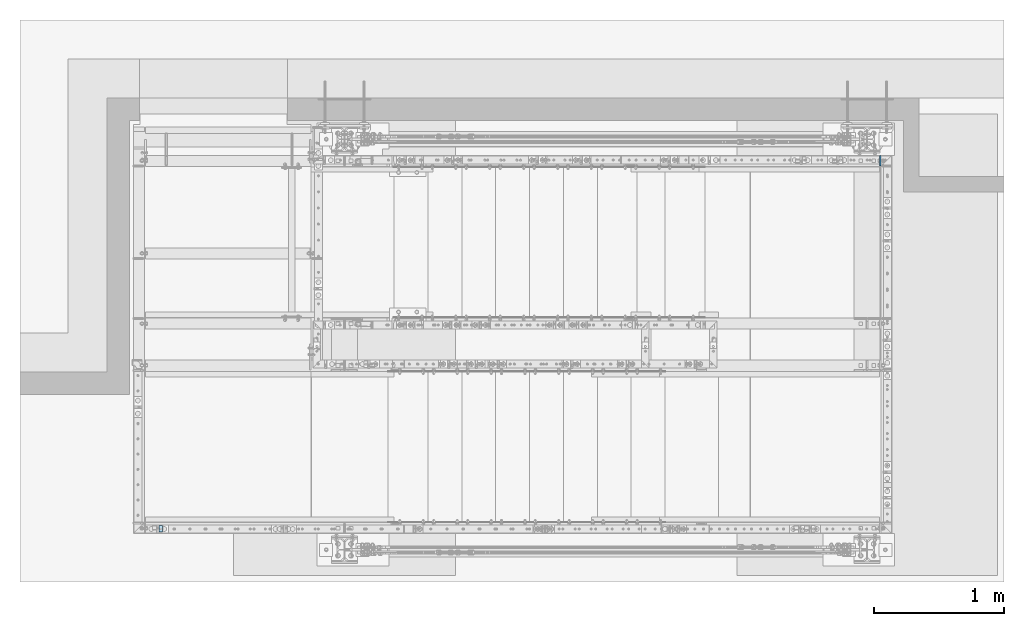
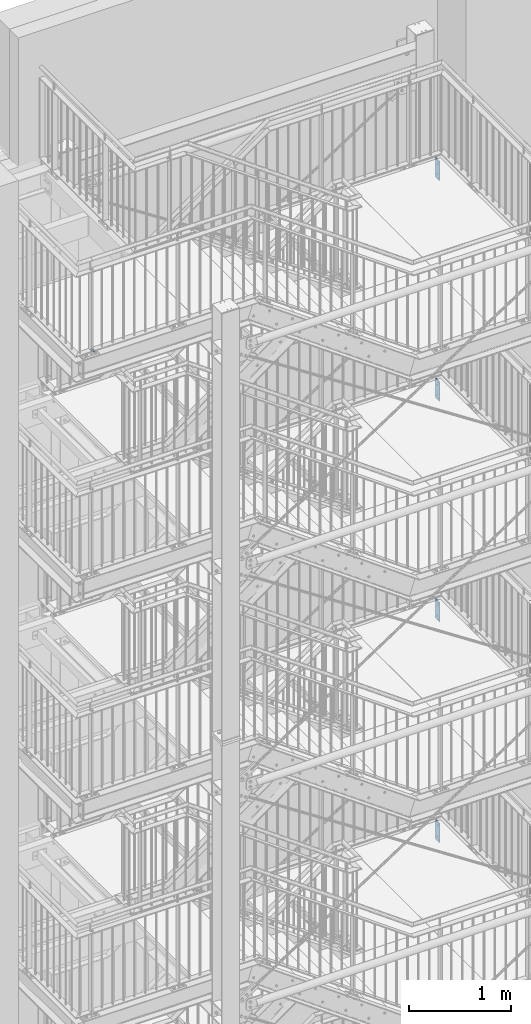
# One storey, part 220 of 831: 5 plates, 17 openings.
"""IFC2X3 building model written with IfcOpenShell, lengths in millimetres."""

from ifc_helpers import new_model, entity, si_unit, converted_unit, point, frame, frame_2d, origin, origin_with_axes, origin_2d_with_axis, place, context, project, spatial, polyline, circle_curve, line_curve, trimmed, segment, composite_curve, circle, outline, extrude, material, layer, layer_set, element, save


model = new_model("IFC2X3")

# Units and contexts
model_context = context("Model", 3, precision=1e-09, world=origin_with_axes())
ifc_project = project(units=[si_unit("LENGTHUNIT", "METRE", prefix="MILLI"), si_unit("AREAUNIT", "SQUARE_METRE"), si_unit("VOLUMEUNIT", "CUBIC_METRE"), converted_unit("PLANEANGLEUNIT", "DEGREE", entity("IfcPlaneAngleMeasure", 0.01745329), si_unit("PLANEANGLEUNIT", "RADIAN"), dimensions=[0, 0, 0, 0, 0, 0, 0])], contexts=[model_context])

# Site, building, storey
site_placement = place(None, origin_with_axes())
site = spatial("IfcSite", under=ifc_project, at=site_placement, Name="Site", CompositionType="ELEMENT")
building_placement = place(site_placement, origin_with_axes())
building = spatial("IfcBuilding", under=site, at=building_placement, Name="Struktur 1", CompositionType="ELEMENT")
storey_placement = place(building_placement, origin_with_axes())
storey = spatial("IfcBuildingStorey", under=building, at=storey_placement, Name="Default Storey", CompositionType="ELEMENT", Elevation=0.0)

# Plate, opening
ifc_material = material(Name="S235JR")
ifc_layer_1 = layer(ifc_material, 6.0)
ifc_layer_set_1 = layer_set([ifc_layer_1], Name="S235JR")
plate_1_placement = place(None, frame((3447.29154585, 4526.736971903, 17888.0), z_axis=(0.0, 0.0, 1.0), x_axis=(1.0, 0.0, 0.0)))
plate_1 = element("IfcPlate", 1, at=plate_1_placement, inside=storey, material=ifc_layer_set_1, Name="-", ObjectType="-", context=model_context, shape_type="SweptSolid", body=[
    extrude(outline(polyline([(-15.0, -25.0), (15.0, -25.0), (15.0, 25.0), (-15.0, 25.0), (-15.0, -25.0)])), origin_with_axes(), (0.0, 0.0, 1.0), 6.0),
])
opening_1_placement = place(plate_1_placement, frame((-1e-09, 0.0, -0.5), z_axis=(0.0, 0.0, 1.0), x_axis=(1.0, 0.0, 0.0)))
element("IfcOpeningElement", 2, at=opening_1_placement, cuts=plate_1, ObjectType="Opening", context=model_context, shape_type="SweptSolid", body=[
    extrude(outline(composite_curve([segment(trimmed(line_curve((-2.5, -5.001), (1.0, 0.0), 5.0), [point((-2.5, -5.001))], [point((2.5, -5.001))], True, "CARTESIAN"), True, "CONTINUOUS"), segment(trimmed(circle_curve(frame_2d((2.5, 0.0), x_axis=(1.0, 0.0)), 5.001), [point((2.5, -5.001))], [point((2.5, 5.001))], True, "CARTESIAN"), True, "CONTINUOUS"), segment(trimmed(line_curve((2.5, 5.001), (-1.0, 0.0), 5.0), [point((2.5, 5.001))], [point((-2.5, 5.001))], True, "CARTESIAN"), True, "CONTINUOUS"), segment(trimmed(circle_curve(frame_2d((-2.5, 0.0), x_axis=(1.0, 0.0)), 5.001), [point((-2.5, 5.001))], [point((-2.5, -5.001))], True, "CARTESIAN"), True, "CONTINUOUS")], self_intersect=False)), origin(), (0.0, 0.0, 1.0), 7.0),
])

# Plate, openings
ifc_layer_2 = layer(ifc_material, 10.0)
ifc_layer_set_2 = layer_set([ifc_layer_2], Name="S235JR")
plate_2_placement = place(None, frame((8971.713402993, 7311.736971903, 8631.0), z_axis=(-1.0, 0.0, 0.0), x_axis=(0.0, 1.0, 0.0)))
plate_2 = element("IfcPlate", 3, at=plate_2_placement, inside=storey, material=ifc_layer_set_2, Name="Endplate", ObjectType="Endplate", context=model_context, shape_type="SweptSolid", body=[
    extrude(outline(polyline([(0.0, 0.0), (80.0, 0.0), (80.0, 230.0), (0.0, 230.0), (0.0, 0.0)])), origin_with_axes(), (0.0, 0.0, 1.0), 10.0),
])
opening_2_placement = place(plate_2_placement, frame((17.5, 209.0, -0.5), z_axis=(0.0, 0.0, 1.0), x_axis=(0.0, -1.0, 0.0)))
element("IfcOpeningElement", 4, at=opening_2_placement, cuts=plate_2, ObjectType="Opening", context=model_context, shape_type="SweptSolid", body=[
    extrude(circle(Radius=6.001, at=origin_2d_with_axis()), origin(), (0.0, 0.0, 1.0), 11.0),
])
opening_3_placement = place(plate_2_placement, frame((17.5, 21.0, -0.5), z_axis=(0.0, 0.0, 1.0), x_axis=(0.0, -1.0, 0.0)))
element("IfcOpeningElement", 5, at=opening_3_placement, cuts=plate_2, ObjectType="Opening", context=model_context, shape_type="SweptSolid", body=[
    extrude(circle(Radius=6.001, at=origin_2d_with_axis()), origin(), (0.0, 0.0, 1.0), 11.0),
])
opening_4_placement = place(plate_2_placement, frame((40.0, 115.0, -0.5), z_axis=(0.0, 0.0, 1.0), x_axis=(0.0, -1.0, 0.0)))
element("IfcOpeningElement", 6, at=opening_4_placement, cuts=plate_2, ObjectType="Opening", context=model_context, shape_type="SweptSolid", body=[
    extrude(circle(Radius=9.001, at=frame_2d((60.0, 0.0), x_axis=(1.0, 0.0))), origin(), (0.0, 0.0, 1.0), 11.0),
])
opening_5_placement = place(plate_2_placement, frame((40.0, 115.0, -0.5), z_axis=(0.0, 0.0, 1.0), x_axis=(0.0, -1.0, 0.0)))
element("IfcOpeningElement", 7, at=opening_5_placement, cuts=plate_2, ObjectType="Opening", context=model_context, shape_type="SweptSolid", body=[
    extrude(circle(Radius=9.001, at=frame_2d((-60.0, 0.0), x_axis=(1.0, 0.0))), origin(), (0.0, 0.0, 1.0), 11.0),
])

plate_3_placement = place(None, frame((8971.713402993, 7311.736971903, 11260.5000003), z_axis=(-1.0, 0.0, 0.0), x_axis=(0.0, 1.0, 0.0)))
plate_3 = element("IfcPlate", 8, at=plate_3_placement, inside=storey, material=ifc_layer_set_2, Name="Endplate", ObjectType="Endplate", context=model_context, shape_type="SweptSolid", body=[
    extrude(outline(polyline([(0.0, 0.0), (80.0, 0.0), (80.0, 230.0), (0.0, 230.0), (0.0, 0.0)])), origin_with_axes(), (0.0, 0.0, 1.0), 10.0),
])
opening_6_placement = place(plate_3_placement, frame((17.5, 209.0, -0.5), z_axis=(0.0, 0.0, 1.0), x_axis=(0.0, -1.0, 0.0)))
element("IfcOpeningElement", 9, at=opening_6_placement, cuts=plate_3, ObjectType="Opening", context=model_context, shape_type="SweptSolid", body=[
    extrude(circle(Radius=6.001, at=origin_2d_with_axis()), origin(), (0.0, 0.0, 1.0), 11.0),
])
opening_7_placement = place(plate_3_placement, frame((17.5, 21.0, -0.5), z_axis=(0.0, 0.0, 1.0), x_axis=(0.0, -1.0, 0.0)))
element("IfcOpeningElement", 10, at=opening_7_placement, cuts=plate_3, ObjectType="Opening", context=model_context, shape_type="SweptSolid", body=[
    extrude(circle(Radius=6.001, at=origin_2d_with_axis()), origin(), (0.0, 0.0, 1.0), 11.0),
])
opening_8_placement = place(plate_3_placement, frame((40.0, 115.0, -0.5), z_axis=(0.0, 0.0, 1.0), x_axis=(0.0, -1.0, 0.0)))
element("IfcOpeningElement", 11, at=opening_8_placement, cuts=plate_3, ObjectType="Opening", context=model_context, shape_type="SweptSolid", body=[
    extrude(circle(Radius=9.001, at=frame_2d((60.0, 0.0), x_axis=(1.0, 0.0))), origin(), (0.0, 0.0, 1.0), 11.0),
])
opening_9_placement = place(plate_3_placement, frame((40.0, 115.0, -0.5), z_axis=(0.0, 0.0, 1.0), x_axis=(0.0, -1.0, 0.0)))
element("IfcOpeningElement", 12, at=opening_9_placement, cuts=plate_3, ObjectType="Opening", context=model_context, shape_type="SweptSolid", body=[
    extrude(circle(Radius=9.001, at=frame_2d((-60.0, 0.0), x_axis=(1.0, 0.0))), origin(), (0.0, 0.0, 1.0), 11.0),
])

plate_4_placement = place(None, frame((8971.713402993, 7311.736971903, 13891.5000001), z_axis=(-1.0, 0.0, 0.0), x_axis=(0.0, 1.0, 0.0)))
plate_4 = element("IfcPlate", 13, at=plate_4_placement, inside=storey, material=ifc_layer_set_2, Name="Endplate", ObjectType="Endplate", context=model_context, shape_type="SweptSolid", body=[
    extrude(outline(polyline([(0.0, 0.0), (80.0, 0.0), (80.0, 230.0), (0.0, 230.0), (0.0, 0.0)])), origin_with_axes(), (0.0, 0.0, 1.0), 10.0),
])
opening_10_placement = place(plate_4_placement, frame((17.5, 209.0, -0.5), z_axis=(0.0, 0.0, 1.0), x_axis=(0.0, -1.0, 0.0)))
element("IfcOpeningElement", 14, at=opening_10_placement, cuts=plate_4, ObjectType="Opening", context=model_context, shape_type="SweptSolid", body=[
    extrude(circle(Radius=6.001, at=origin_2d_with_axis()), origin(), (0.0, 0.0, 1.0), 11.0),
])
opening_11_placement = place(plate_4_placement, frame((17.5, 21.0, -0.5), z_axis=(0.0, 0.0, 1.0), x_axis=(0.0, -1.0, 0.0)))
element("IfcOpeningElement", 15, at=opening_11_placement, cuts=plate_4, ObjectType="Opening", context=model_context, shape_type="SweptSolid", body=[
    extrude(circle(Radius=6.001, at=origin_2d_with_axis()), origin(), (0.0, 0.0, 1.0), 11.0),
])
opening_12_placement = place(plate_4_placement, frame((40.0, 115.0, -0.5), z_axis=(0.0, 0.0, 1.0), x_axis=(0.0, -1.0, 0.0)))
element("IfcOpeningElement", 16, at=opening_12_placement, cuts=plate_4, ObjectType="Opening", context=model_context, shape_type="SweptSolid", body=[
    extrude(circle(Radius=9.001, at=frame_2d((60.0, 0.0), x_axis=(1.0, 0.0))), origin(), (0.0, 0.0, 1.0), 11.0),
])
opening_13_placement = place(plate_4_placement, frame((40.0, 115.0, -0.5), z_axis=(0.0, 0.0, 1.0), x_axis=(0.0, -1.0, 0.0)))
element("IfcOpeningElement", 17, at=opening_13_placement, cuts=plate_4, ObjectType="Opening", context=model_context, shape_type="SweptSolid", body=[
    extrude(circle(Radius=9.001, at=frame_2d((-60.0, 0.0), x_axis=(1.0, 0.0))), origin(), (0.0, 0.0, 1.0), 11.0),
])

plate_5_placement = place(None, frame((8971.713402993, 7311.736971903, 16519.0000003), z_axis=(-1.0, 0.0, 0.0), x_axis=(0.0, 1.0, 0.0)))
plate_5 = element("IfcPlate", 18, at=plate_5_placement, inside=storey, material=ifc_layer_set_2, Name="Endplate", ObjectType="Endplate", context=model_context, shape_type="SweptSolid", body=[
    extrude(outline(polyline([(0.0, 0.0), (80.0, 0.0), (80.0, 230.0), (0.0, 230.0), (0.0, 0.0)])), origin_with_axes(), (0.0, 0.0, 1.0), 10.0),
])
opening_14_placement = place(plate_5_placement, frame((17.5, 209.0, -0.5), z_axis=(0.0, 0.0, 1.0), x_axis=(0.0, -1.0, 0.0)))
element("IfcOpeningElement", 19, at=opening_14_placement, cuts=plate_5, ObjectType="Opening", context=model_context, shape_type="SweptSolid", body=[
    extrude(circle(Radius=6.001, at=origin_2d_with_axis()), origin(), (0.0, 0.0, 1.0), 11.0),
])
opening_15_placement = place(plate_5_placement, frame((17.5, 21.0, -0.5), z_axis=(0.0, 0.0, 1.0), x_axis=(0.0, -1.0, 0.0)))
element("IfcOpeningElement", 20, at=opening_15_placement, cuts=plate_5, ObjectType="Opening", context=model_context, shape_type="SweptSolid", body=[
    extrude(circle(Radius=6.001, at=origin_2d_with_axis()), origin(), (0.0, 0.0, 1.0), 11.0),
])
opening_16_placement = place(plate_5_placement, frame((40.0, 115.0, -0.5), z_axis=(0.0, 0.0, 1.0), x_axis=(0.0, -1.0, 0.0)))
element("IfcOpeningElement", 21, at=opening_16_placement, cuts=plate_5, ObjectType="Opening", context=model_context, shape_type="SweptSolid", body=[
    extrude(circle(Radius=9.001, at=frame_2d((60.0, 0.0), x_axis=(1.0, 0.0))), origin(), (0.0, 0.0, 1.0), 11.0),
])
opening_17_placement = place(plate_5_placement, frame((40.0, 115.0, -0.5), z_axis=(0.0, 0.0, 1.0), x_axis=(0.0, -1.0, 0.0)))
element("IfcOpeningElement", 22, at=opening_17_placement, cuts=plate_5, ObjectType="Opening", context=model_context, shape_type="SweptSolid", body=[
    extrude(circle(Radius=9.001, at=frame_2d((-60.0, 0.0), x_axis=(1.0, 0.0))), origin(), (0.0, 0.0, 1.0), 11.0),
])

save(model, "model.ifc")
